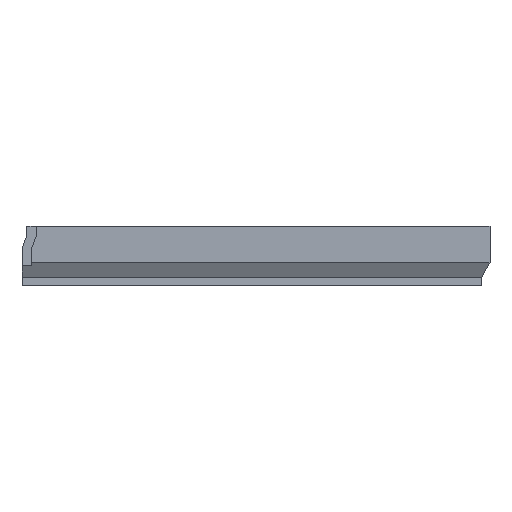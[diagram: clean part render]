
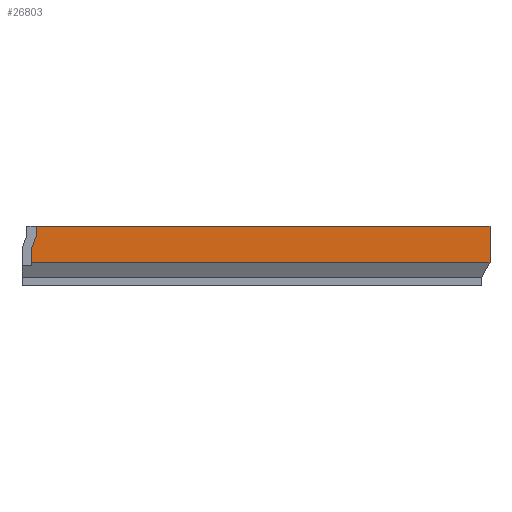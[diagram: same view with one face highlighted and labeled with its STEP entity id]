
A CAD part, front view. The second image highlights one B-rep face of the part: STEP entity #26803.
In plain terms, the highlighted planar face has unit normal (0, -1, 0).
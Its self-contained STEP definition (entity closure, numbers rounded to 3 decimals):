
#3999 = PLANE('',#4000);
#4000 = AXIS2_PLACEMENT_3D('',#4001,#4002,#4003);
#4001 = CARTESIAN_POINT('',(0.,-3.046,25.));
#4002 = DIRECTION('',(0.,0.,1.));
#4003 = DIRECTION('',(1.,0.,-0.));
#13345 = VERTEX_POINT('',#13346);
#13346 = CARTESIAN_POINT('',(6.1,-179.2,25.));
#13359 = PLANE('',#13360);
#13360 = AXIS2_PLACEMENT_3D('',#13361,#13362,#13363);
#13361 = CARTESIAN_POINT('',(6.1,-178.4,38.));
#13362 = DIRECTION('',(-1.,0.,0.));
#13363 = DIRECTION('',(0.,-1.,0.));
#13370 = EDGE_CURVE('',#13345,#13371,#13373,.T.);
#13371 = VERTEX_POINT('',#13372);
#13372 = CARTESIAN_POINT('',(195.2,-179.2,25.));
#13373 = SURFACE_CURVE('',#13374,(#13378,#13385),.PCURVE_S1.);
#13374 = LINE('',#13375,#13376);
#13375 = CARTESIAN_POINT('',(-195.2,-179.2,25.));
#13376 = VECTOR('',#13377,1.);
#13377 = DIRECTION('',(1.,0.,0.));
#13378 = PCURVE('',#3999,#13379);
#13379 = DEFINITIONAL_REPRESENTATION('',(#13380),#13384);
#13380 = LINE('',#13381,#13382);
#13381 = CARTESIAN_POINT('',(-195.2,-176.154));
#13382 = VECTOR('',#13383,1.);
#13383 = DIRECTION('',(1.,0.));
#13384 = ( GEOMETRIC_REPRESENTATION_CONTEXT(2) 
PARAMETRIC_REPRESENTATION_CONTEXT() REPRESENTATION_CONTEXT('2D SPACE',''
  ) );
#13385 = PCURVE('',#13386,#13391);
#13386 = PLANE('',#13387);
#13387 = AXIS2_PLACEMENT_3D('',#13388,#13389,#13390);
#13388 = CARTESIAN_POINT('',(-195.2,-179.2,9.762));
#13389 = DIRECTION('',(0.,1.,0.));
#13390 = DIRECTION('',(1.,0.,0.));
#13391 = DEFINITIONAL_REPRESENTATION('',(#13392),#13396);
#13392 = LINE('',#13393,#13394);
#13393 = CARTESIAN_POINT('',(0.,-15.238));
#13394 = VECTOR('',#13395,1.);
#13395 = DIRECTION('',(1.,0.));
#13396 = ( GEOMETRIC_REPRESENTATION_CONTEXT(2) 
PARAMETRIC_REPRESENTATION_CONTEXT() REPRESENTATION_CONTEXT('2D SPACE',''
  ) );
#13414 = PLANE('',#13415);
#13415 = AXIS2_PLACEMENT_3D('',#13416,#13417,#13418);
#13416 = CARTESIAN_POINT('',(195.2,-179.2,9.762));
#13417 = DIRECTION('',(-1.,0.,0.));
#13418 = DIRECTION('',(0.,1.,0.));
#13493 = PLANE('',#13494);
#13494 = AXIS2_PLACEMENT_3D('',#13495,#13496,#13497);
#13495 = CARTESIAN_POINT('',(0.,-177.45,6.731)
  );
#13496 = DIRECTION('',(0.,-0.866,-0.5));
#13497 = DIRECTION('',(1.,0.,0.));
#13520 = PLANE('',#13521);
#13521 = AXIS2_PLACEMENT_3D('',#13522,#13523,#13524);
#13522 = CARTESIAN_POINT('',(4.1,-178.4,8.));
#13523 = DIRECTION('',(-1.,0.,0.));
#13524 = DIRECTION('',(0.,-1.,0.));
#13546 = PLANE('',#13547);
#13547 = AXIS2_PLACEMENT_3D('',#13548,#13549,#13550);
#13548 = CARTESIAN_POINT('',(6.1,-178.4,21.));
#13549 = DIRECTION('',(-0.94,0.,0.342));
#13550 = DIRECTION('',(0.,-1.,0.));
#26589 = VERTEX_POINT('',#26590);
#26590 = CARTESIAN_POINT('',(195.2,-179.2,9.762));
#26779 = EDGE_CURVE('',#26589,#13371,#26780,.T.);
#26780 = SURFACE_CURVE('',#26781,(#26785,#26792),.PCURVE_S1.);
#26781 = LINE('',#26782,#26783);
#26782 = CARTESIAN_POINT('',(195.2,-179.2,9.762));
#26783 = VECTOR('',#26784,1.);
#26784 = DIRECTION('',(0.,0.,1.));
#26785 = PCURVE('',#13414,#26786);
#26786 = DEFINITIONAL_REPRESENTATION('',(#26787),#26791);
#26787 = LINE('',#26788,#26789);
#26788 = CARTESIAN_POINT('',(0.,0.));
#26789 = VECTOR('',#26790,1.);
#26790 = DIRECTION('',(0.,-1.));
#26791 = ( GEOMETRIC_REPRESENTATION_CONTEXT(2) 
PARAMETRIC_REPRESENTATION_CONTEXT() REPRESENTATION_CONTEXT('2D SPACE',''
  ) );
#26792 = PCURVE('',#13386,#26793);
#26793 = DEFINITIONAL_REPRESENTATION('',(#26794),#26798);
#26794 = LINE('',#26795,#26796);
#26795 = CARTESIAN_POINT('',(390.4,0.));
#26796 = VECTOR('',#26797,1.);
#26797 = DIRECTION('',(0.,-1.));
#26798 = ( GEOMETRIC_REPRESENTATION_CONTEXT(2) 
PARAMETRIC_REPRESENTATION_CONTEXT() REPRESENTATION_CONTEXT('2D SPACE',''
  ) );
#26803 = ADVANCED_FACE('',(#26804),#13386,.F.);
#26804 = FACE_BOUND('',#26805,.F.);
#26805 = EDGE_LOOP('',(#26806,#26827,#26828,#26829,#26852,#26873));
#26806 = ORIENTED_EDGE('',*,*,#26807,.T.);
#26807 = EDGE_CURVE('',#26808,#13345,#26810,.T.);
#26808 = VERTEX_POINT('',#26809);
#26809 = CARTESIAN_POINT('',(6.1,-179.2,21.));
#26810 = SURFACE_CURVE('',#26811,(#26815,#26821),.PCURVE_S1.);
#26811 = LINE('',#26812,#26813);
#26812 = CARTESIAN_POINT('',(6.1,-179.2,23.881));
#26813 = VECTOR('',#26814,1.);
#26814 = DIRECTION('',(0.,-0.,1.));
#26815 = PCURVE('',#13386,#26816);
#26816 = DEFINITIONAL_REPRESENTATION('',(#26817),#26820);
#26817 = B_SPLINE_CURVE_WITH_KNOTS('',1,(#26818,#26819),.UNSPECIFIED.,
  .F.,.F.,(2,2),(-2.881,1.119),
  .PIECEWISE_BEZIER_KNOTS.);
#26818 = CARTESIAN_POINT('',(201.3,-11.238));
#26819 = CARTESIAN_POINT('',(201.3,-15.238));
#26820 = ( GEOMETRIC_REPRESENTATION_CONTEXT(2) 
PARAMETRIC_REPRESENTATION_CONTEXT() REPRESENTATION_CONTEXT('2D SPACE',''
  ) );
#26821 = PCURVE('',#13359,#26822);
#26822 = DEFINITIONAL_REPRESENTATION('',(#26823),#26826);
#26823 = B_SPLINE_CURVE_WITH_KNOTS('',1,(#26824,#26825),.UNSPECIFIED.,
  .F.,.F.,(2,2),(-2.881,1.119),
  .PIECEWISE_BEZIER_KNOTS.);
#26824 = CARTESIAN_POINT('',(0.8,-17.));
#26825 = CARTESIAN_POINT('',(0.8,-13.));
#26826 = ( GEOMETRIC_REPRESENTATION_CONTEXT(2) 
PARAMETRIC_REPRESENTATION_CONTEXT() REPRESENTATION_CONTEXT('2D SPACE',''
  ) );
#26827 = ORIENTED_EDGE('',*,*,#13370,.T.);
#26828 = ORIENTED_EDGE('',*,*,#26779,.F.);
#26829 = ORIENTED_EDGE('',*,*,#26830,.F.);
#26830 = EDGE_CURVE('',#26831,#26589,#26833,.T.);
#26831 = VERTEX_POINT('',#26832);
#26832 = CARTESIAN_POINT('',(4.1,-179.2,9.762));
#26833 = SURFACE_CURVE('',#26834,(#26838,#26845),.PCURVE_S1.);
#26834 = LINE('',#26835,#26836);
#26835 = CARTESIAN_POINT('',(-195.2,-179.2,9.762));
#26836 = VECTOR('',#26837,1.);
#26837 = DIRECTION('',(1.,0.,0.));
#26838 = PCURVE('',#13386,#26839);
#26839 = DEFINITIONAL_REPRESENTATION('',(#26840),#26844);
#26840 = LINE('',#26841,#26842);
#26841 = CARTESIAN_POINT('',(0.,0.));
#26842 = VECTOR('',#26843,1.);
#26843 = DIRECTION('',(1.,0.));
#26844 = ( GEOMETRIC_REPRESENTATION_CONTEXT(2) 
PARAMETRIC_REPRESENTATION_CONTEXT() REPRESENTATION_CONTEXT('2D SPACE',''
  ) );
#26845 = PCURVE('',#13493,#26846);
#26846 = DEFINITIONAL_REPRESENTATION('',(#26847),#26851);
#26847 = LINE('',#26848,#26849);
#26848 = CARTESIAN_POINT('',(-195.2,3.5));
#26849 = VECTOR('',#26850,1.);
#26850 = DIRECTION('',(1.,0.));
#26851 = ( GEOMETRIC_REPRESENTATION_CONTEXT(2) 
PARAMETRIC_REPRESENTATION_CONTEXT() REPRESENTATION_CONTEXT('2D SPACE',''
  ) );
#26852 = ORIENTED_EDGE('',*,*,#26853,.T.);
#26853 = EDGE_CURVE('',#26831,#26854,#26856,.T.);
#26854 = VERTEX_POINT('',#26855);
#26855 = CARTESIAN_POINT('',(4.1,-179.2,15.5));
#26856 = SURFACE_CURVE('',#26857,(#26861,#26867),.PCURVE_S1.);
#26857 = LINE('',#26858,#26859);
#26858 = CARTESIAN_POINT('',(4.1,-179.2,8.881));
#26859 = VECTOR('',#26860,1.);
#26860 = DIRECTION('',(0.,-0.,1.));
#26861 = PCURVE('',#13386,#26862);
#26862 = DEFINITIONAL_REPRESENTATION('',(#26863),#26866);
#26863 = B_SPLINE_CURVE_WITH_KNOTS('',1,(#26864,#26865),.UNSPECIFIED.,
  .F.,.F.,(2,2),(0.881,6.619),
  .PIECEWISE_BEZIER_KNOTS.);
#26864 = CARTESIAN_POINT('',(199.3,0.));
#26865 = CARTESIAN_POINT('',(199.3,-5.738));
#26866 = ( GEOMETRIC_REPRESENTATION_CONTEXT(2) 
PARAMETRIC_REPRESENTATION_CONTEXT() REPRESENTATION_CONTEXT('2D SPACE',''
  ) );
#26867 = PCURVE('',#13520,#26868);
#26868 = DEFINITIONAL_REPRESENTATION('',(#26869),#26872);
#26869 = B_SPLINE_CURVE_WITH_KNOTS('',1,(#26870,#26871),.UNSPECIFIED.,
  .F.,.F.,(2,2),(0.881,6.619),
  .PIECEWISE_BEZIER_KNOTS.);
#26870 = CARTESIAN_POINT('',(0.8,1.762));
#26871 = CARTESIAN_POINT('',(0.8,7.5));
#26872 = ( GEOMETRIC_REPRESENTATION_CONTEXT(2) 
PARAMETRIC_REPRESENTATION_CONTEXT() REPRESENTATION_CONTEXT('2D SPACE',''
  ) );
#26873 = ORIENTED_EDGE('',*,*,#26874,.T.);
#26874 = EDGE_CURVE('',#26854,#26808,#26875,.T.);
#26875 = SURFACE_CURVE('',#26876,(#26880,#26886),.PCURVE_S1.);
#26876 = LINE('',#26877,#26878);
#26877 = CARTESIAN_POINT('',(-7.459,-179.2,-16.288));
#26878 = VECTOR('',#26879,1.);
#26879 = DIRECTION('',(0.342,-0.,0.94));
#26880 = PCURVE('',#13386,#26881);
#26881 = DEFINITIONAL_REPRESENTATION('',(#26882),#26885);
#26882 = B_SPLINE_CURVE_WITH_KNOTS('',1,(#26883,#26884),.UNSPECIFIED.,
  .F.,.F.,(2,2),(33.825,39.677),
  .PIECEWISE_BEZIER_KNOTS.);
#26883 = CARTESIAN_POINT('',(199.3,-5.738));
#26884 = CARTESIAN_POINT('',(201.3,-11.238));
#26885 = ( GEOMETRIC_REPRESENTATION_CONTEXT(2) 
PARAMETRIC_REPRESENTATION_CONTEXT() REPRESENTATION_CONTEXT('2D SPACE',''
  ) );
#26886 = PCURVE('',#13546,#26887);
#26887 = DEFINITIONAL_REPRESENTATION('',(#26888),#26891);
#26888 = B_SPLINE_CURVE_WITH_KNOTS('',1,(#26889,#26890),.UNSPECIFIED.,
  .F.,.F.,(2,2),(33.825,39.677),
  .PIECEWISE_BEZIER_KNOTS.);
#26889 = CARTESIAN_POINT('',(0.8,-5.852));
#26890 = CARTESIAN_POINT('',(0.8,0.));
#26891 = ( GEOMETRIC_REPRESENTATION_CONTEXT(2) 
PARAMETRIC_REPRESENTATION_CONTEXT() REPRESENTATION_CONTEXT('2D SPACE',''
  ) );
